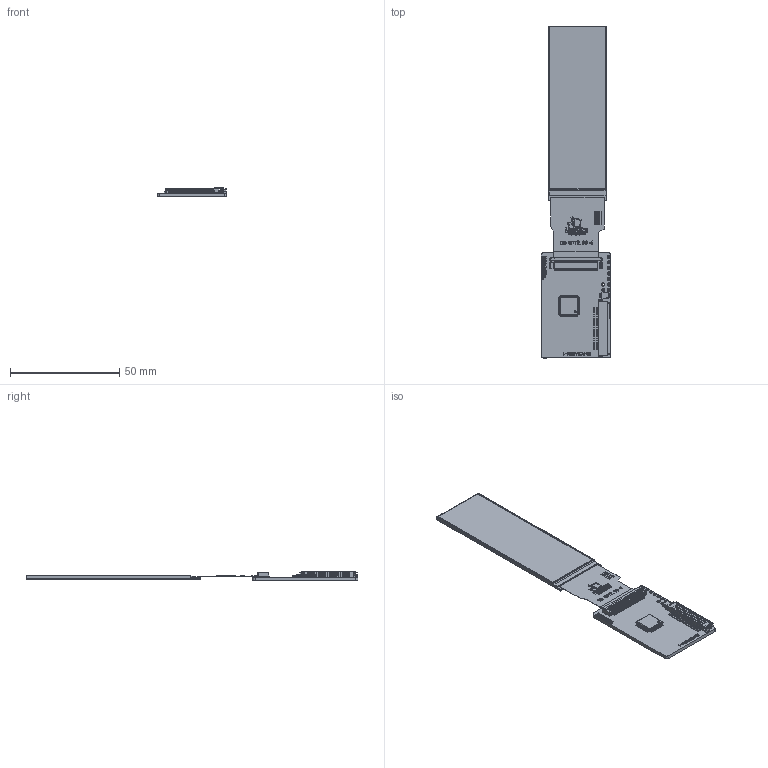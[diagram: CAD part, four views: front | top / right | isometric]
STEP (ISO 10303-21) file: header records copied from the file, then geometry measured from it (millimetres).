
FILE_DESCRIPTION (( 'STEP AP214' ), '1' );
FILE_NAME ('ER-TFT2.99-1-6011.STEP', '2024-08-26T01:11:36', ( '微软用户' ), ( '微软中国' ), 'SwSTEP 2.0', 'SolidWorks 2023', '' );
FILE_SCHEMA (( 'AUTOMOTIVE_DESIGN' ));
Length unit declared in the file: millimetre
Products named in the file (3): ER-6011-Controller Board; ER-TFT2.99-1-6011; ER-TFT2.99-1
Assembly tree (2 placements, depth 2):
  ER-TFT2.99-1-6011
    ER-6011-Controller Board
    ER-TFT2.99-1
Bounding box: 32 x 152.14 x 4.32 mm (x, y, z)
Volume: 6589.1 mm3; surface area: 13764.2 mm2
Topology: 184 solids, 184 shells, 5151 faces, 15105 edges, 9909 vertices
Faces by surface type: plane 4016, bspline 592, cylinder 543
Entity records: 246204 total; most frequent: CARTESIAN_POINT 60296, ORIENTED_EDGE 30180, DIRECTION 24092, EDGE_CURVE 15090, VECTOR 12772, LINE 12772, VERTEX_POINT 9909, AXIS2_PLACEMENT_3D 5660
